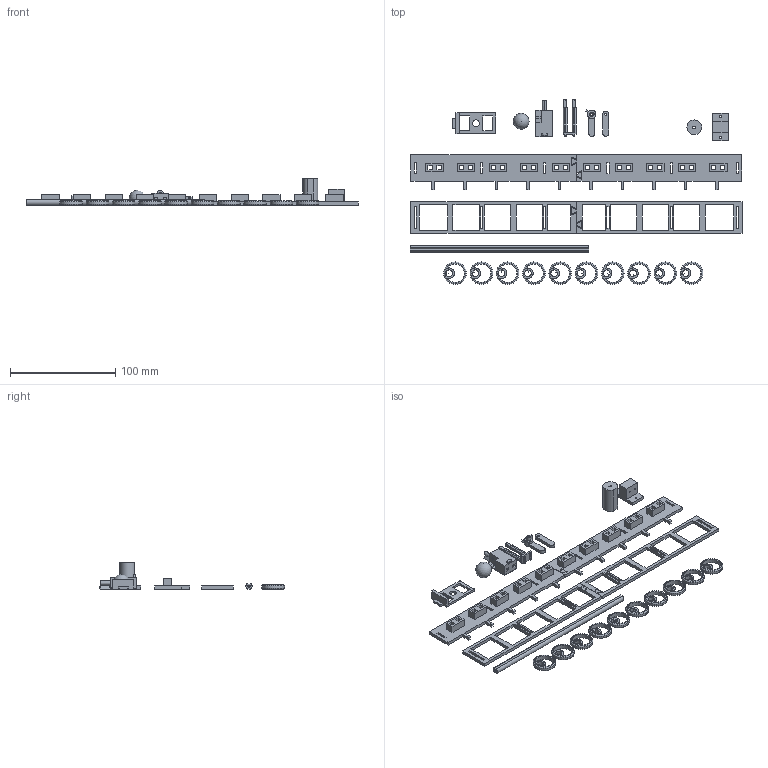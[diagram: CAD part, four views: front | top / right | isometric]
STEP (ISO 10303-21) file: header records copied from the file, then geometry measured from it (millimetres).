
FILE_DESCRIPTION(/* description */ (''),/* implementation_level */ '2;1');
FILE_NAME(/* name */ 'C:/Users/ene7/Desktop/３Dプリンタ/!!3Dプリンターエクスポート/013.Wave/WAVE.step',/* time_stamp */ '2021-03-06T14:06:24+09:00',/* author */ (''),/* organization */ (''),/* preprocessor_version */ 'ST-DEVELOPER v18.1',/* originating_system */ 'Autodesk Translation Framework v9.10.0.1330',/* authorisation */ '');
FILE_SCHEMA (('AUTOMOTIVE_DESIGN { 1 0 10303 214 3 1 1 }'));
Length unit declared in the file: millimetre
Products named in the file (1): WAVE-STEP
Bounding box: 315.88 x 176.07 x 25 mm (x, y, z)
Volume: 64670.9 mm3; surface area: 61913.4 mm2
Topology: 23 solids, 23 shells, 661 faces, 1743 edges, 1137 vertices
Faces by surface type: plane 535, cylinder 103, torus 21, cone 1, sphere 1
Full cylindrical faces by diameter (mm): 1.2 x2, 1.6 x2, 2 x1, 2.7 x1, 4 x1, 5.1 x1, 6.5 x1, 8 x1, 21.5 x10
Entity records: 20581 total; most frequent: CARTESIAN_POINT 3654, ORIENTED_EDGE 3482, DIRECTION 3303, EDGE_CURVE 1741, LINE 1491, VECTOR 1491, VERTEX_POINT 1137, AXIS2_PLACEMENT_3D 906
